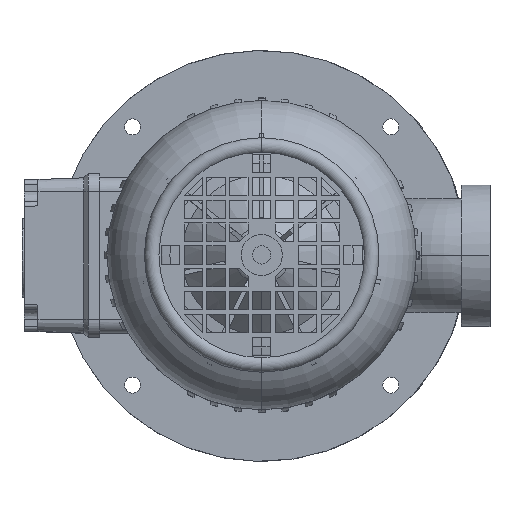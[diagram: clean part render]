
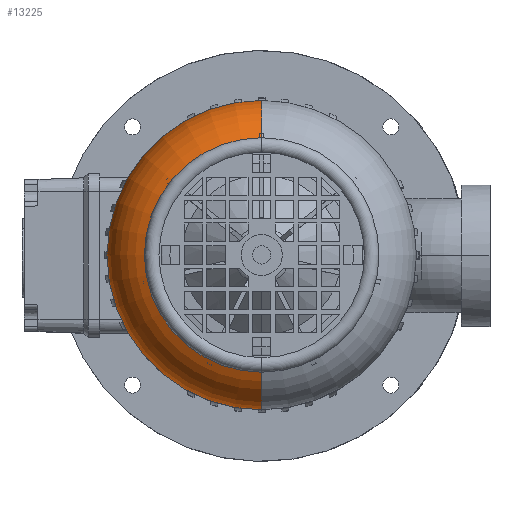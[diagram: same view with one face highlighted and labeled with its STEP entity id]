
A CAD part, top view. The second image highlights one B-rep face of the part: STEP entity #13225.
In plain terms, the highlighted toroidal (fillet/blend) face has major radius 39.75 mm and minor radius 28 mm.
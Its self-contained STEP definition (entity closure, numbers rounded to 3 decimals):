
#6345=EDGE_CURVE('',#6943,#13703,#16065,.T.);
#6943=VERTEX_POINT('',#16740);
#8755=VERTEX_POINT('',#18790);
#9423=EDGE_CURVE('',#8755,#6943,#19517,.T.);
#11251=VERTEX_POINT('',#21536);
#13225=ADVANCED_FACE('',(#23723),#23724,.T.);
#13641=EDGE_CURVE('',#11251,#8755,#24160,.T.);
#13703=VERTEX_POINT('',#24229);
#14331=EDGE_CURVE('',#11251,#13703,#24918,.T.);
#16065=CIRCLE('',#28397,28.);
#16740=CARTESIAN_POINT('',(0.0,67.75,169.0));
#18790=CARTESIAN_POINT('',(0.,-67.75,169.0));
#19517=CIRCLE('',#34918,67.75);
#21536=CARTESIAN_POINT('',(0.,-51.372,194.474));
#23723=FACE_OUTER_BOUND('',#43068,.T.);
#23724=TOROIDAL_SURFACE('',#43069,39.75,28.);
#24160=CIRCLE('',#43810,28.);
#24229=CARTESIAN_POINT('',(0.0,51.372,194.474));
#24918=CIRCLE('',#45222,51.372);
#28397=AXIS2_PLACEMENT_3D('',#47103,#47104,#47105);
#34918=AXIS2_PLACEMENT_3D('',#51219,#51220,#51221);
#43068=EDGE_LOOP('',(#55688,#55689,#55690,#55691));
#43069=AXIS2_PLACEMENT_3D('',#55692,#55693,#55694);
#43810=AXIS2_PLACEMENT_3D('',#56075,#56076,#56077);
#45222=AXIS2_PLACEMENT_3D('',#56887,#56888,#56889);
#47103=CARTESIAN_POINT('',(0.,39.75,169.0));
#47104=DIRECTION('',(1.0,0.,0.0));
#47105=DIRECTION('',(0.,1.0,0.0));
#51219=CARTESIAN_POINT('',(0.0,0.0,169.0));
#51220=DIRECTION('',(0.0,0.0,-1.0));
#51221=DIRECTION('',(0.0,1.0,0.0));
#55688=ORIENTED_EDGE('',*,*,#13641,.F.);
#55689=ORIENTED_EDGE('',*,*,#14331,.T.);
#55690=ORIENTED_EDGE('',*,*,#6345,.F.);
#55691=ORIENTED_EDGE('',*,*,#9423,.F.);
#55692=CARTESIAN_POINT('',(0.0,0.0,169.0));
#55693=DIRECTION('',(0.0,0.0,-1.0));
#55694=DIRECTION('',(0.0,-1.0,0.0));
#56075=CARTESIAN_POINT('',(0.,-39.75,169.0));
#56076=DIRECTION('',(1.0,0.,0.0));
#56077=DIRECTION('',(0.,-1.0,-0.0));
#56887=CARTESIAN_POINT('',(0.0,0.0,194.474));
#56888=DIRECTION('',(0.0,0.0,-1.0));
#56889=DIRECTION('',(0.0,1.0,0.0));
